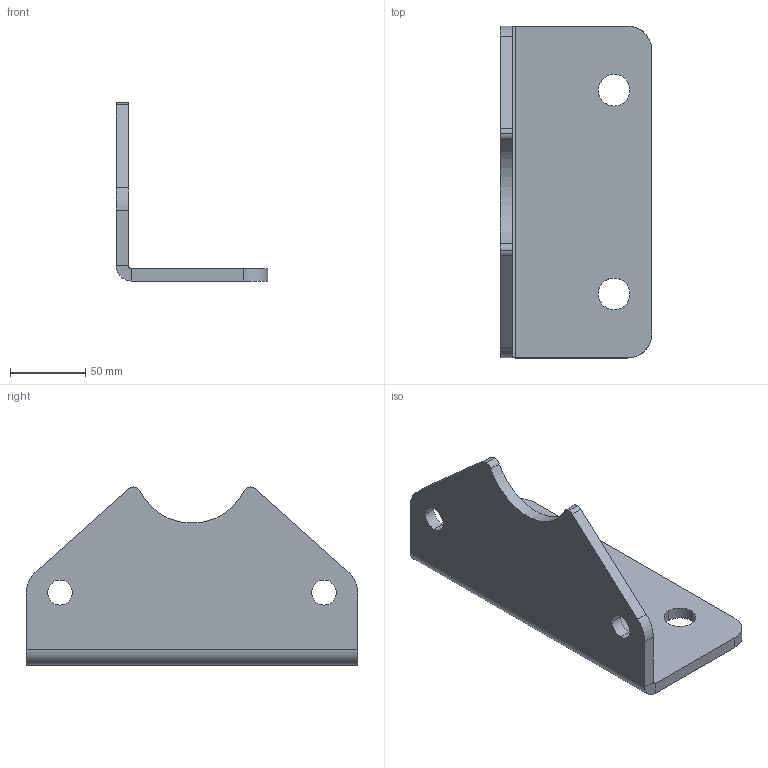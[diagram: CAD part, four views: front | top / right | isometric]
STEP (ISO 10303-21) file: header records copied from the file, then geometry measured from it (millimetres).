
FILE_DESCRIPTION(('CATIA V5 STEP Exchange'),'2;1');
FILE_NAME('D:\stp file for catalog\BAST-LB\LB 200.stp','2018-06-13T05:28:52+00:00',('none'),('none'),'CATIA Version 5-6 Release 2016','CATIA V5 STEP AP203','none');
FILE_SCHEMA(('CONFIG_CONTROL_DESIGN'));
Length unit declared in the file: millimetre
Products named in the file (1): LB-200-00
Bounding box: 100.5 x 220 x 118 mm (x, y, z)
Volume: 311410.9 mm3; surface area: 85987.5 mm2
Topology: 1 solids, 1 shells, 40 faces, 106 edges, 68 vertices
Faces by surface type: cylinder 27, plane 13
Entity records: 1241 total; most frequent: CARTESIAN_POINT 237, ORIENTED_EDGE 212, DIRECTION 164, EDGE_CURVE 106, AXIS2_PLACEMENT_3D 81, VERTEX_POINT 68, VECTOR 52, LINE 52
